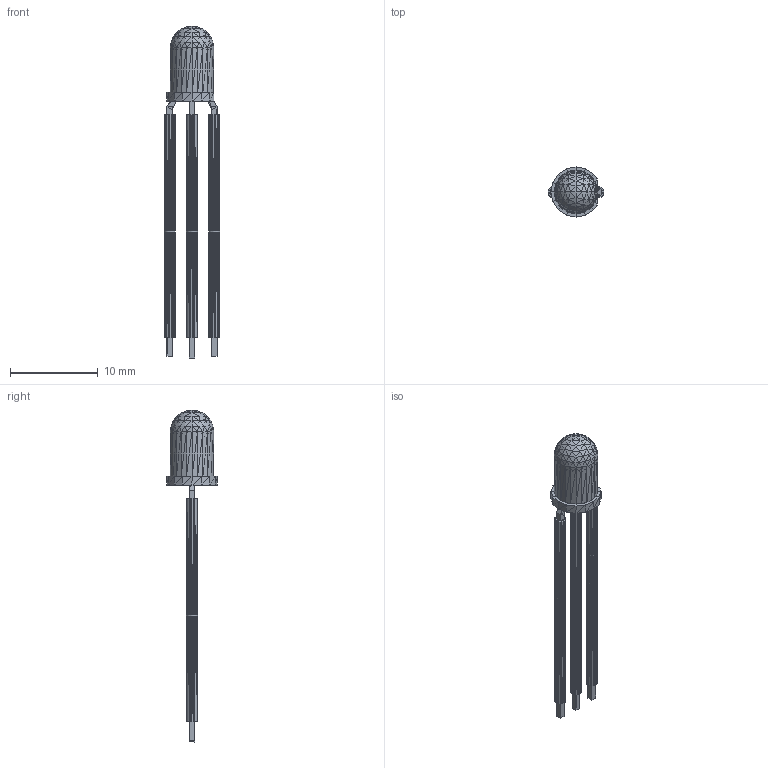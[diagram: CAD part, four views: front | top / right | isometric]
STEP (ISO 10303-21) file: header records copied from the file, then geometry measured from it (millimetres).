
FILE_DESCRIPTION(('HOOPS Exchange Step'),'2;1');
FILE_NAME('***.stp');
FILE_SCHEMA( ('AP242_MANAGED_MODEL_BASED_3D_ENGINEERING_MIM_LF {1 0 10303 442 1 1 4 }') );
Length unit declared in the file: inch
Products named in the file (16): LEDRG4_2; LEDRG4_3; LEDRG4_4; LEDRG4_5; LEDRG4_6; LEDRG4_7; LEDRG4_8; LEDRG4_9; LEDRG4_10; LEDRG4_11; LEDRG4_12; LEDRG4_13; LEDRG4_14; LEDRG4_15; LEDRG4_16; LEDRG4
Assembly tree (15 placements, depth 2):
  LEDRG4
    LEDRG4_2
    LEDRG4_3
    LEDRG4_4
    LEDRG4_5
    LEDRG4_6
    LEDRG4_7
    LEDRG4_8
    LEDRG4_9
    LEDRG4_10
    LEDRG4_11
    LEDRG4_12
    LEDRG4_13
    LEDRG4_14
    LEDRG4_15
    LEDRG4_16
Bounding box: 6.35 x 5.72 x 37.85 mm (x, y, z)
Surface area: 1809.2 mm2 (no closed solid volume)
Topology: 0 solids, 2976 shells, 2976 faces, 3942 edges, 2862 vertices
Faces by surface type: plane 2976
Entity records: 61147 total; most frequent: DIRECTION 9958, CARTESIAN_POINT 9812, ORIENTED_EDGE 8928, VECTOR 3942, LINE 3942, EDGE_CURVE 3942, AXIS2_PLACEMENT_3D 3008, PLANE 2976
